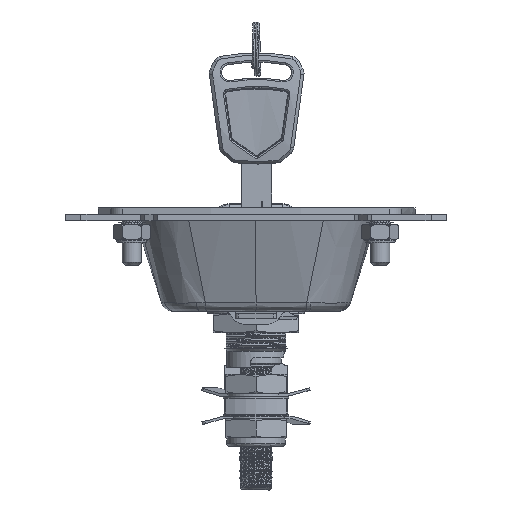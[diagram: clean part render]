
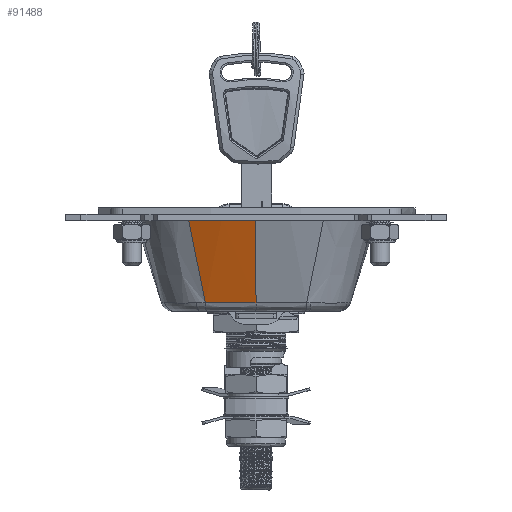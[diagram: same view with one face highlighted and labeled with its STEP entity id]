
A CAD part, front view. The second image highlights one B-rep face of the part: STEP entity #91488.
In plain terms, the highlighted free-form (B-spline) face has degree [3, 3] with [6, 4] control points.
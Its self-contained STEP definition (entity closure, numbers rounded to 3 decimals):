
#1966 = CARTESIAN_POINT ( 'NONE',  ( -15.917, -31.662, 2.735 ) ) ;
#3209 = CARTESIAN_POINT ( 'NONE',  ( -14.505, -41.503, 29.709 ) ) ;
#5711 = CARTESIAN_POINT ( 'NONE',  ( -4.995, -41.911, 29.177 ) ) ;
#6533 = CARTESIAN_POINT ( 'NONE',  ( 0.355, -35.579, 11.311 ) ) ;
#9960 = VECTOR ( 'NONE', #124467, 1000. ) ;
#12600 = CARTESIAN_POINT ( 'NONE',  ( 0., -42.023, 29.179 ) ) ;
#13423 = CARTESIAN_POINT ( 'NONE',  ( -2.685, -41.992, 29.178 ) ) ;
#13482 = CARTESIAN_POINT ( 'NONE',  ( -21.294, -39.961, 29.156 ) ) ;
#16813 = CARTESIAN_POINT ( 'NONE',  ( -13.379, -41.229, 29.171 ) ) ;
#18460 = CARTESIAN_POINT ( 'NONE',  ( 0.431, -42.214, 29.709 ) ) ;
#18465 = CARTESIAN_POINT ( 'NONE',  ( -10.021, -41.57, 29.175 ) ) ;
#19270 = CARTESIAN_POINT ( 'NONE',  ( 0.211, -32.262, 2.112 ) ) ;
#19275 = CARTESIAN_POINT ( 'NONE',  ( -9.725, -41.596, 29.175 ) ) ;
#28665 = CARTESIAN_POINT ( 'NONE',  ( -19.921, -37.179, 20.51 ) ) ;
#29510 = CARTESIAN_POINT ( 'NONE',  ( -10.247, -41.549, 29.174 ) ) ;
#31185 = CARTESIAN_POINT ( 'NONE',  ( -5.791, -35.588, 11.311 ) ) ;
#31191 = CARTESIAN_POINT ( 'NONE',  ( -10.234, -41.55, 29.174 ) ) ;
#31999 = CARTESIAN_POINT ( 'NONE',  ( -10.652, -31.991, 2.112 ) ) ;
#32005 = CARTESIAN_POINT ( 'NONE',  ( -10.179, -41.555, 29.174 ) ) ;
#38895 = CARTESIAN_POINT ( 'NONE',  ( -3.54, -41.967, 29.178 ) ) ;
#39741 = CARTESIAN_POINT ( 'NONE',  ( -4.321, -41.939, 29.177 ) ) ;
#42280 = CARTESIAN_POINT ( 'NONE',  ( -10.249, -41.549, 29.174 ) ) ;
#43947 = CARTESIAN_POINT ( 'NONE',  ( -11.936, -35.161, 11.311 ) ) ;
#44641 = B_SPLINE_CURVE_WITH_KNOTS ( 'NONE', 3,
 ( #12600, #51648, #103395, #65198, #13423, #38895, #90658, #39741, #91498, #94871, #5711, #148326, #58350, #96533, #110085, #158565, #19275, #68577, #18465, #133088, #32005, #67726, #31191, #121181, #29510, #42280, #70228, #159419, #16813, #83768, #120341, #94039 ),
 .UNSPECIFIED., .F., .F.,
 ( 4, 2, 2, 2, 1, 2, 2, 2, 2, 2, 1, 1, 1, 1, 1, 2, 2, 2, 4 ),
 ( 0., 0.125, 0.187, 0.219, 0.234, 0.242, 0.25, 0.375, 0.437, 0.469, 0.484, 0.492, 0.496, 0.498, 0.499, 0.5, 0.5, 0.75, 1. ),
 .UNSPECIFIED. ) ;
#46397 = LINE ( 'NONE', #137226, #9960 ) ;
#51648 = CARTESIAN_POINT ( 'NONE',  ( -0.307, -42.023, 29.179 ) ) ;
#55029 = CARTESIAN_POINT ( 'NONE',  ( 0.262, -38.897, 20.51 ) ) ;
#55796 = EDGE_CURVE ( 'NONE', #128881, #145607, #44641, .T. ) ;
#56695 = CARTESIAN_POINT ( 'NONE',  ( -16., -31.445, 2.112 ) ) ;
#56804 = VERTEX_POINT ( 'NONE', #93414 ) ;
#58350 = CARTESIAN_POINT ( 'NONE',  ( -6.551, -41.838, 29.176 ) ) ;
#59896 = B_SPLINE_CURVE_WITH_KNOTS ( 'NONE', 3,
 ( #104659, #143734, #105496, #1966 ),
 .UNSPECIFIED., .F., .F.,
 ( 4, 4 ),
 ( 0., 1. ),
 .UNSPECIFIED. ) ;
#62168 = EDGE_CURVE ( 'NONE', #137060, #56804, #59896, .T. ) ;
#65198 = CARTESIAN_POINT ( 'NONE',  ( -2.185, -42.003, 29.178 ) ) ;
#67726 = CARTESIAN_POINT ( 'NONE',  ( -10.216, -41.552, 29.174 ) ) ;
#68577 = CARTESIAN_POINT ( 'NONE',  ( -9.853, -41.585, 29.175 ) ) ;
#70223 = CARTESIAN_POINT ( 'NONE',  ( 0.393, -38.896, 20.51 ) ) ;
#70228 = CARTESIAN_POINT ( 'NONE',  ( -10.249, -41.549, 29.174 ) ) ;
#77180 = B_SPLINE_SURFACE_WITH_KNOTS ( 'NONE', 3, 3, ( 
 ( #148319, #28665, #108426, #122818 ),
 ( #160240, #121177, #134754, #56695 ),
 ( #3209, #159414, #43947, #31999 ),
 ( #95699, #147506, #31185, #83762 ),
 ( #80446, #55029, #82961, #19270 ),
 ( #18460, #70223, #6533, #158561 ) ),
 .UNSPECIFIED., .F., .F., .F.,
 ( 4, 1, 1, 4 ),
 ( 4, 4 ),
 ( -0.02, 0., 1., 1.02 ),
 ( 0.026, 0.931 ),
 .UNSPECIFIED. ) ;
#80446 = CARTESIAN_POINT ( 'NONE',  ( 0.287, -42.215, 29.709 ) ) ;
#80612 = CARTESIAN_POINT ( 'NONE',  ( 0., -32.453, 2.643 ) ) ;
#82961 = CARTESIAN_POINT ( 'NONE',  ( 0.236, -35.579, 11.311 ) ) ;
#83762 = CARTESIAN_POINT ( 'NONE',  ( -5.168, -32.267, 2.112 ) ) ;
#83768 = CARTESIAN_POINT ( 'NONE',  ( -17.064, -40.719, 29.164 ) ) ;
#90658 = CARTESIAN_POINT ( 'NONE',  ( -3.842, -41.957, 29.177 ) ) ;
#91488 = ADVANCED_FACE ( 'NONE', ( #135560 ), #77180, .F. ) ;
#91498 = CARTESIAN_POINT ( 'NONE',  ( -4.567, -41.929, 29.177 ) ) ;
#93414 = CARTESIAN_POINT ( 'NONE',  ( -15.917, -31.662, 2.735 ) ) ;
#94039 = CARTESIAN_POINT ( 'NONE',  ( -21.294, -39.961, 29.156 ) ) ;
#94871 = CARTESIAN_POINT ( 'NONE',  ( -4.823, -41.918, 29.177 ) ) ;
#95699 = CARTESIAN_POINT ( 'NONE',  ( -7.037, -42.229, 29.709 ) ) ;
#96533 = CARTESIAN_POINT ( 'NONE',  ( -7.663, -41.761, 29.176 ) ) ;
#103088 = CARTESIAN_POINT ( 'NONE',  ( -19.502, -37.195, 20.349 ) ) ;
#103395 = CARTESIAN_POINT ( 'NONE',  ( -0.892, -42.023, 29.178 ) ) ;
#104659 = CARTESIAN_POINT ( 'NONE',  ( 0., -32.453, 2.643 ) ) ;
#105496 = CARTESIAN_POINT ( 'NONE',  ( -10.627, -32.191, 2.674 ) ) ;
#107835 = EDGE_CURVE ( 'NONE', #145607, #56804, #137959, .T. ) ;
#108426 = CARTESIAN_POINT ( 'NONE',  ( -18.013, -34.306, 11.311 ) ) ;
#110085 = CARTESIAN_POINT ( 'NONE',  ( -8.933, -41.664, 29.175 ) ) ;
#112692 = EDGE_LOOP ( 'NONE', ( #154190, #116114, #139696, #158736 ) ) ;
#116114 = ORIENTED_EDGE ( 'NONE', *, *, #117808, .F. ) ;
#117808 = EDGE_CURVE ( 'NONE', #128881, #137060, #46397, .T. ) ;
#120341 = CARTESIAN_POINT ( 'NONE',  ( -19.092, -40.392, 29.161 ) ) ;
#121177 = CARTESIAN_POINT ( 'NONE',  ( -19.792, -37.201, 20.51 ) ) ;
#121181 = CARTESIAN_POINT ( 'NONE',  ( -10.243, -41.55, 29.174 ) ) ;
#122818 = CARTESIAN_POINT ( 'NONE',  ( -16.105, -31.434, 2.112 ) ) ;
#124467 = DIRECTION ( 'NONE',  ( 0., 0.339, -0.941 ) ) ;
#126679 = CARTESIAN_POINT ( 'NONE',  ( 0., -42.023, 29.179 ) ) ;
#128881 = VERTEX_POINT ( 'NONE', #126679 ) ;
#133088 = CARTESIAN_POINT ( 'NONE',  ( -10.099, -41.563, 29.175 ) ) ;
#134754 = CARTESIAN_POINT ( 'NONE',  ( -17.896, -34.323, 11.311 ) ) ;
#135560 = FACE_OUTER_BOUND ( 'NONE', #112692, .T. ) ;
#137060 = VERTEX_POINT ( 'NONE', #80612 ) ;
#137226 = CARTESIAN_POINT ( 'NONE',  ( 0., -37.238, 15.911 ) ) ;
#137959 = B_SPLINE_CURVE_WITH_KNOTS ( 'NONE', 3,
 ( #139647, #103088, #151532, #142175 ),
 .UNSPECIFIED., .F., .F.,
 ( 4, 4 ),
 ( 0., 1. ),
 .UNSPECIFIED. ) ;
#139647 = CARTESIAN_POINT ( 'NONE',  ( -21.294, -39.961, 29.156 ) ) ;
#139696 = ORIENTED_EDGE ( 'NONE', *, *, #55796, .T. ) ;
#142175 = CARTESIAN_POINT ( 'NONE',  ( -15.917, -31.662, 2.735 ) ) ;
#143734 = CARTESIAN_POINT ( 'NONE',  ( -5.313, -32.453, 2.643 ) ) ;
#145607 = VERTEX_POINT ( 'NONE', #13482 ) ;
#147506 = CARTESIAN_POINT ( 'NONE',  ( -6.414, -38.908, 20.51 ) ) ;
#148319 = CARTESIAN_POINT ( 'NONE',  ( -21.829, -40.051, 29.709 ) ) ;
#148326 = CARTESIAN_POINT ( 'NONE',  ( -5.085, -41.906, 29.177 ) ) ;
#151532 = CARTESIAN_POINT ( 'NONE',  ( -17.709, -34.428, 11.542 ) ) ;
#154190 = ORIENTED_EDGE ( 'NONE', *, *, #62168, .F. ) ;
#158561 = CARTESIAN_POINT ( 'NONE',  ( 0.316, -32.261, 2.112 ) ) ;
#158565 = CARTESIAN_POINT ( 'NONE',  ( -9.29, -41.634, 29.175 ) ) ;
#158736 = ORIENTED_EDGE ( 'NONE', *, *, #107835, .T. ) ;
#159414 = CARTESIAN_POINT ( 'NONE',  ( -13.22, -38.332, 20.51 ) ) ;
#159419 = CARTESIAN_POINT ( 'NONE',  ( -11.721, -41.412, 29.173 ) ) ;
#160240 = CARTESIAN_POINT ( 'NONE',  ( -21.689, -40.08, 29.709 ) ) ;
